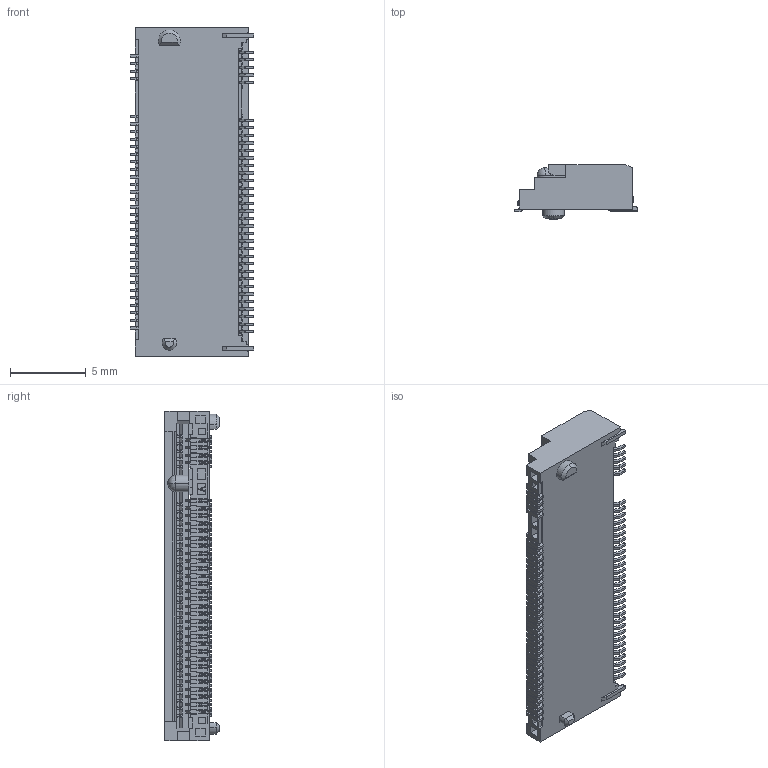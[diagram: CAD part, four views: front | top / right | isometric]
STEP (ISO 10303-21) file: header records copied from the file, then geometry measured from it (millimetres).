
FILE_DESCRIPTION((''),'2;1');
FILE_NAME('AC-12-NF02-XXX_M_2_3_2H_M_KEY_G','2026-08-19T',('PMT1 SFT'),(''),'PRO/ENGINEER BY PARAMETRIC TECHNOLOGY CORPORATION, 2011490','PRO/ENGINEER BY PARAMETRIC TECHNOLOGY CORPORATION, 2011490','');
FILE_SCHEMA(('CONFIG_CONTROL_DESIGN'));
Products named in the file (1): AC-12-NF02-XXX_M_2_3_2H_M_KEY_G
Bounding box: 8.2 x 3.6 x 21.8 mm (x, y, z)
Volume: 317.1 mm3; surface area: 1072.4 mm2
Topology: 1 solids, 1 shells, 4428 faces, 13196 edges, 8492 vertices
Faces by surface type: plane 3568, cylinder 855, cone 3, bspline 2
Entity records: 147006 total; most frequent: CARTESIAN_POINT 26574, ORIENTED_EDGE 26388, DIRECTION 23831, EDGE_CURVE 13194, VECTOR 11271, LINE 11271, VERTEX_POINT 8492, AXIS2_PLACEMENT_3D 6280
